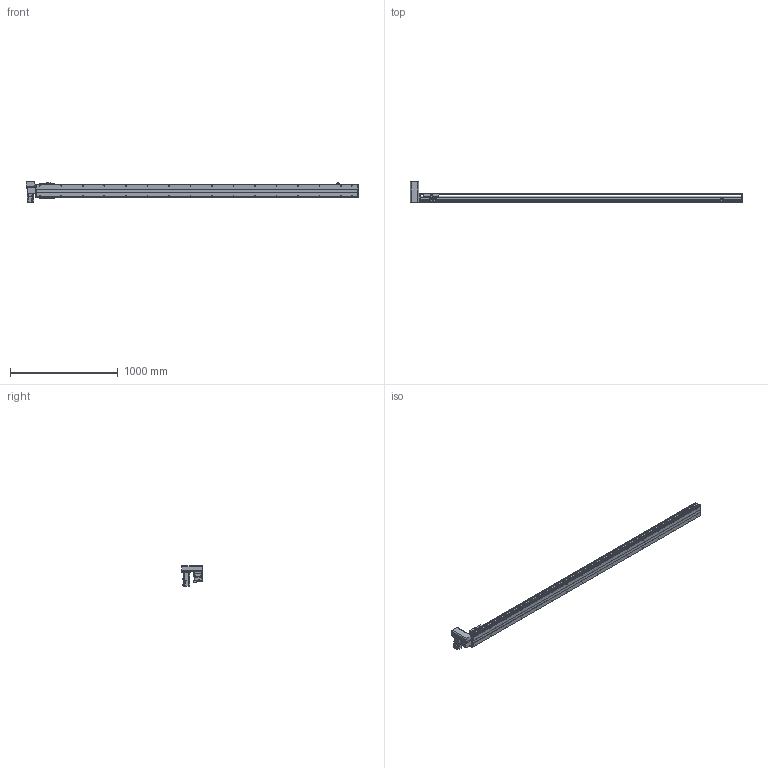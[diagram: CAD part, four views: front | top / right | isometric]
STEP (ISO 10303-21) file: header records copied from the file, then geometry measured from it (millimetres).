
FILE_DESCRIPTION( ( 'STEP AP214' ), '1' );
FILE_NAME( 'x:/temp/worker_27/temp/exporttempdir_6708_257_SwFls/format_0/PBS120-P40-S2700-RU-T40-C1-N(0).stp', '2022-06-06T00:51:52', ( 'License CC BY-ND 4.0' ), ( 'CADENAS' ), ' ', 'PARTsolutions', ' ' );
FILE_SCHEMA( ( 'AUTOMOTIVE_DESIGN { 1 0 10303 214 1 1 1 1 }' ) );
Length unit declared in the file: millimetre
Products named in the file (7): PBS120-P40-S2700-RU-T40-C1-N(0); _PBS120-S2700()_body; _PBS120T-RU_motors; _T40-p1; _PBS120_sliser; _PBS120_plant; _PBS120_sensor
Assembly tree (8 placements, depth 2):
  PBS120-P40-S2700-RU-T40-C1-N(0)
    _PBS120-S2700()_body
    _PBS120T-RU_motors
    _T40-p1
    _PBS120_sliser
    _PBS120_plant
    _PBS120_sensor  x3
Bounding box: 3086 x 198 x 189.7 mm (x, y, z)
Volume: 11494608.1 mm3; surface area: 2384698.3 mm2
Topology: 8 solids, 8 shells, 876 faces, 2236 edges, 1435 vertices
Faces by surface type: plane 565, cylinder 245, cone 64, torus 2
Full cylindrical faces by diameter (mm): 2.459 x6, 3.242 x4, 4 x2, 4.134 x4, 4.5 x10, 4.917 x36, 5.5 x11, 6 x2, 6.6 x1, 7 x2, 8.5 x4, 9 x4, 12 x1, 14 x1, 30 x2, 40 x1, 50 x2
Entity records: 28668 total; most frequent: DIRECTION 3932, CARTESIAN_POINT 3821, ORIENTED_EDGE 3598, EDGE_CURVE 1799, AXIS2_PLACEMENT_3D 1352, VERTEX_POINT 1241, LINE 1228, VECTOR 1228
